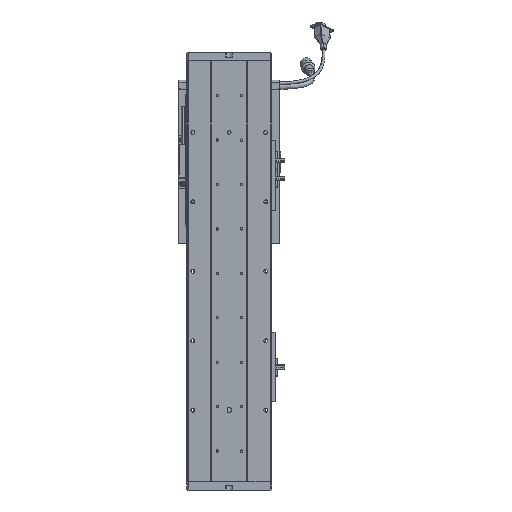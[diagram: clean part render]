
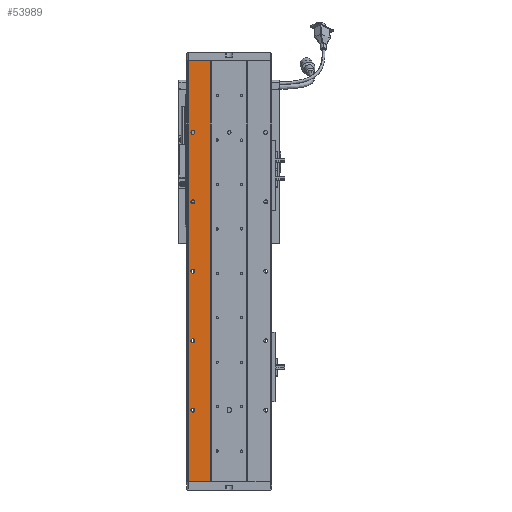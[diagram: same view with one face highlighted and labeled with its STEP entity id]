
A CAD part, front view. The second image highlights one B-rep face of the part: STEP entity #53989.
In plain terms, the highlighted planar face has unit normal (0, -1, 0).
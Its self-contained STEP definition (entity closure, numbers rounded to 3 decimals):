
#519 = LINE ( 'NONE', #34674, #5746 ) ;
#540 = LINE ( 'NONE', #66183, #41702 ) ;
#794 = VERTEX_POINT ( 'NONE', #4197 ) ;
#1423 = ORIENTED_EDGE ( 'NONE', *, *, #59522, .T. ) ;
#1605 = DIRECTION ( 'NONE',  ( 0., 1., 0. ) ) ;
#1695 = EDGE_CURVE ( 'NONE', #794, #19152, #10585, .T. ) ;
#2264 = CARTESIAN_POINT ( 'NONE',  ( 102.625, 76.768, 500.25 ) ) ;
#2699 = VECTOR ( 'NONE', #12211, 1000. ) ;
#4197 = CARTESIAN_POINT ( 'NONE',  ( 102.625, 76.768, 205.75 ) ) ;
#5018 = FACE_BOUND ( 'NONE', #11283, .T. ) ;
#5059 = EDGE_CURVE ( 'NONE', #57167, #32749, #540, .T. ) ;
#5548 = DIRECTION ( 'NONE',  ( 0., 1., 0. ) ) ;
#5746 = VECTOR ( 'NONE', #56896, 1000. ) ;
#6999 = DIRECTION ( 'NONE',  ( 0., 0., 1. ) ) ;
#7211 = CARTESIAN_POINT ( 'NONE',  ( 102.625, 76.768, 200.25 ) ) ;
#7310 = ORIENTED_EDGE ( 'NONE', *, *, #43401, .F. ) ;
#8616 = CARTESIAN_POINT ( 'NONE',  ( 102.625, 76.768, 103. ) ) ;
#9374 = DIRECTION ( 'NONE',  ( 0., 0., 1. ) ) ;
#9717 = CARTESIAN_POINT ( 'NONE',  ( 102.625, 76.768, 105.75 ) ) ;
#10021 = CARTESIAN_POINT ( 'NONE',  ( 102.625, 76.768, 305.75 ) ) ;
#10585 = CIRCLE ( 'NONE', #35364, 2.75 ) ;
#11283 = EDGE_LOOP ( 'NONE', ( #39887, #43562 ) ) ;
#12211 = DIRECTION ( 'NONE',  ( -1., 0., 0. ) ) ;
#12236 = CARTESIAN_POINT ( 'NONE',  ( 102.625, 76.768, 203. ) ) ;
#12345 = CIRCLE ( 'NONE', #62926, 2.75 ) ;
#12401 = CARTESIAN_POINT ( 'NONE',  ( 102.625, 76.768, 403. ) ) ;
#12556 = EDGE_CURVE ( 'NONE', #50802, #31140, #51287, .T. ) ;
#13088 = CARTESIAN_POINT ( 'NONE',  ( 102.625, 76.768, 303. ) ) ;
#13915 = EDGE_CURVE ( 'NONE', #63957, #63741, #40591, .T. ) ;
#14704 = CIRCLE ( 'NONE', #53336, 2.75 ) ;
#15110 = CARTESIAN_POINT ( 'NONE',  ( 95.718, 76.768, 606. ) ) ;
#15118 = AXIS2_PLACEMENT_3D ( 'NONE', #39139, #5548, #6999 ) ;
#15492 = DIRECTION ( 'NONE',  ( 0., 1., 0. ) ) ;
#15667 = CARTESIAN_POINT ( 'NONE',  ( 128.625, 76.768, 0. ) ) ;
#15891 = LINE ( 'NONE', #46061, #2699 ) ;
#16621 = CARTESIAN_POINT ( 'NONE',  ( 102.625, 76.768, 400.25 ) ) ;
#16655 = EDGE_CURVE ( 'NONE', #19531, #20714, #44770, .T. ) ;
#18495 = VERTEX_POINT ( 'NONE', #16621 ) ;
#19152 = VERTEX_POINT ( 'NONE', #7211 ) ;
#19207 = PLANE ( 'NONE',  #44342 ) ;
#19531 = VERTEX_POINT ( 'NONE', #26549 ) ;
#20616 = CIRCLE ( 'NONE', #27654, 2.75 ) ;
#20714 = VERTEX_POINT ( 'NONE', #10021 ) ;
#23139 = CARTESIAN_POINT ( 'NONE',  ( 102.625, 76.768, 505.75 ) ) ;
#23909 = CARTESIAN_POINT ( 'NONE',  ( 84.971, 76.768, 0. ) ) ;
#23947 = VERTEX_POINT ( 'NONE', #15110 ) ;
#23993 = CARTESIAN_POINT ( 'NONE',  ( 102.625, 76.768, 405.75 ) ) ;
#24432 = DIRECTION ( 'NONE',  ( 0., 1., 0. ) ) ;
#24584 = DIRECTION ( 'NONE',  ( 0., 0., 1. ) ) ;
#24625 = AXIS2_PLACEMENT_3D ( 'NONE', #13088, #46700, #68636 ) ;
#24819 = CARTESIAN_POINT ( 'NONE',  ( 102.625, 76.768, 403. ) ) ;
#25192 = FACE_BOUND ( 'NONE', #29318, .T. ) ;
#25347 = VERTEX_POINT ( 'NONE', #28180 ) ;
#25948 = VERTEX_POINT ( 'NONE', #23993 ) ;
#25961 = EDGE_CURVE ( 'NONE', #63741, #63957, #14704, .T. ) ;
#26193 = ORIENTED_EDGE ( 'NONE', *, *, #51227, .T. ) ;
#26303 = CARTESIAN_POINT ( 'NONE',  ( 102.625, 76.768, 503. ) ) ;
#26549 = CARTESIAN_POINT ( 'NONE',  ( 102.625, 76.768, 300.25 ) ) ;
#27654 = AXIS2_PLACEMENT_3D ( 'NONE', #24819, #69760, #24584 ) ;
#28180 = CARTESIAN_POINT ( 'NONE',  ( 95.718, 76.768, 0. ) ) ;
#29171 = DIRECTION ( 'NONE',  ( 0., 0., 1. ) ) ;
#29318 = EDGE_LOOP ( 'NONE', ( #51273, #50821 ) ) ;
#29404 = CARTESIAN_POINT ( 'NONE',  ( 102.625, 76.768, 100.25 ) ) ;
#31140 = VERTEX_POINT ( 'NONE', #2264 ) ;
#31899 = EDGE_LOOP ( 'NONE', ( #59771, #67555 ) ) ;
#32453 = ORIENTED_EDGE ( 'NONE', *, *, #12556, .T. ) ;
#32749 = VERTEX_POINT ( 'NONE', #15667 ) ;
#33382 = CIRCLE ( 'NONE', #24625, 2.75 ) ;
#34120 = CIRCLE ( 'NONE', #51214, 2.75 ) ;
#34311 = ORIENTED_EDGE ( 'NONE', *, *, #37659, .F. ) ;
#34674 = CARTESIAN_POINT ( 'NONE',  ( 95.718, 76.768, 606. ) ) ;
#34860 = FACE_BOUND ( 'NONE', #31899, .T. ) ;
#34947 = CIRCLE ( 'NONE', #15118, 2.75 ) ;
#35364 = AXIS2_PLACEMENT_3D ( 'NONE', #12236, #51468, #41637 ) ;
#35766 = FACE_BOUND ( 'NONE', #67145, .T. ) ;
#35880 = DIRECTION ( 'NONE',  ( 0., 0., 1. ) ) ;
#37579 = CARTESIAN_POINT ( 'NONE',  ( 102.625, 76.768, 303. ) ) ;
#37659 = EDGE_CURVE ( 'NONE', #25347, #23947, #519, .T. ) ;
#38218 = EDGE_LOOP ( 'NONE', ( #32453, #1423 ) ) ;
#38461 = CARTESIAN_POINT ( 'NONE',  ( 0., 76.768, 0. ) ) ;
#39139 = CARTESIAN_POINT ( 'NONE',  ( 102.625, 76.768, 203. ) ) ;
#39887 = ORIENTED_EDGE ( 'NONE', *, *, #1695, .T. ) ;
#40093 = FACE_BOUND ( 'NONE', #38218, .T. ) ;
#40419 = CARTESIAN_POINT ( 'NONE',  ( 102.625, 76.768, 503. ) ) ;
#40591 = CIRCLE ( 'NONE', #52420, 2.75 ) ;
#40872 = DIRECTION ( 'NONE',  ( 0., 1., 0. ) ) ;
#41071 = EDGE_CURVE ( 'NONE', #18495, #25948, #12345, .T. ) ;
#41637 = DIRECTION ( 'NONE',  ( 0., 0., 1. ) ) ;
#41702 = VECTOR ( 'NONE', #72033, 1000. ) ;
#41968 = EDGE_LOOP ( 'NONE', ( #7310, #57678, #26193, #34311 ) ) ;
#43192 = DIRECTION ( 'NONE',  ( 0., 0., 1. ) ) ;
#43401 = EDGE_CURVE ( 'NONE', #32749, #25347, #69897, .T. ) ;
#43562 = ORIENTED_EDGE ( 'NONE', *, *, #62319, .T. ) ;
#43724 = VECTOR ( 'NONE', #55083, 1000. ) ;
#44342 = AXIS2_PLACEMENT_3D ( 'NONE', #23909, #1605, #69085 ) ;
#44770 = CIRCLE ( 'NONE', #52518, 2.75 ) ;
#46061 = CARTESIAN_POINT ( 'NONE',  ( 84.971, 76.768, 606. ) ) ;
#46093 = EDGE_CURVE ( 'NONE', #25948, #18495, #20616, .T. ) ;
#46700 = DIRECTION ( 'NONE',  ( 0., 1., 0. ) ) ;
#47873 = CARTESIAN_POINT ( 'NONE',  ( 128.625, 76.768, 606. ) ) ;
#50802 = VERTEX_POINT ( 'NONE', #23139 ) ;
#50821 = ORIENTED_EDGE ( 'NONE', *, *, #16655, .T. ) ;
#51214 = AXIS2_PLACEMENT_3D ( 'NONE', #40419, #57287, #29171 ) ;
#51227 = EDGE_CURVE ( 'NONE', #57167, #23947, #15891, .T. ) ;
#51273 = ORIENTED_EDGE ( 'NONE', *, *, #52166, .T. ) ;
#51287 = CIRCLE ( 'NONE', #59316, 2.75 ) ;
#51468 = DIRECTION ( 'NONE',  ( 0., 1., 0. ) ) ;
#52166 = EDGE_CURVE ( 'NONE', #20714, #19531, #33382, .T. ) ;
#52420 = AXIS2_PLACEMENT_3D ( 'NONE', #8616, #69306, #35880 ) ;
#52518 = AXIS2_PLACEMENT_3D ( 'NONE', #37579, #15492, #9374 ) ;
#53336 = AXIS2_PLACEMENT_3D ( 'NONE', #63566, #40872, #68228 ) ;
#53989 = ADVANCED_FACE ( 'NONE', ( #40093, #34860, #35766, #5018, #25192, #62778 ), #19207, .F. ) ;
#55083 = DIRECTION ( 'NONE',  ( -1., 0., 0. ) ) ;
#56896 = DIRECTION ( 'NONE',  ( 0., 0., 1. ) ) ;
#57167 = VERTEX_POINT ( 'NONE', #47873 ) ;
#57287 = DIRECTION ( 'NONE',  ( 0., 1., 0. ) ) ;
#57678 = ORIENTED_EDGE ( 'NONE', *, *, #5059, .F. ) ;
#57937 = DIRECTION ( 'NONE',  ( 0., 0., 1. ) ) ;
#59316 = AXIS2_PLACEMENT_3D ( 'NONE', #26303, #59547, #43192 ) ;
#59522 = EDGE_CURVE ( 'NONE', #31140, #50802, #34120, .T. ) ;
#59547 = DIRECTION ( 'NONE',  ( 0., 1., 0. ) ) ;
#59771 = ORIENTED_EDGE ( 'NONE', *, *, #46093, .T. ) ;
#61295 = ORIENTED_EDGE ( 'NONE', *, *, #13915, .T. ) ;
#62319 = EDGE_CURVE ( 'NONE', #19152, #794, #34947, .T. ) ;
#62479 = ORIENTED_EDGE ( 'NONE', *, *, #25961, .T. ) ;
#62778 = FACE_OUTER_BOUND ( 'NONE', #41968, .T. ) ;
#62926 = AXIS2_PLACEMENT_3D ( 'NONE', #12401, #24432, #57937 ) ;
#63566 = CARTESIAN_POINT ( 'NONE',  ( 102.625, 76.768, 103. ) ) ;
#63741 = VERTEX_POINT ( 'NONE', #29404 ) ;
#63957 = VERTEX_POINT ( 'NONE', #9717 ) ;
#66183 = CARTESIAN_POINT ( 'NONE',  ( 128.625, 76.768, 606. ) ) ;
#67145 = EDGE_LOOP ( 'NONE', ( #61295, #62479 ) ) ;
#67555 = ORIENTED_EDGE ( 'NONE', *, *, #41071, .T. ) ;
#68228 = DIRECTION ( 'NONE',  ( 0., 0., 1. ) ) ;
#68636 = DIRECTION ( 'NONE',  ( 0., 0., 1. ) ) ;
#69085 = DIRECTION ( 'NONE',  ( 0., 0., 1. ) ) ;
#69306 = DIRECTION ( 'NONE',  ( 0., 1., 0. ) ) ;
#69760 = DIRECTION ( 'NONE',  ( 0., 1., 0. ) ) ;
#69897 = LINE ( 'NONE', #38461, #43724 ) ;
#72033 = DIRECTION ( 'NONE',  ( 0., 0., -1. ) ) ;
